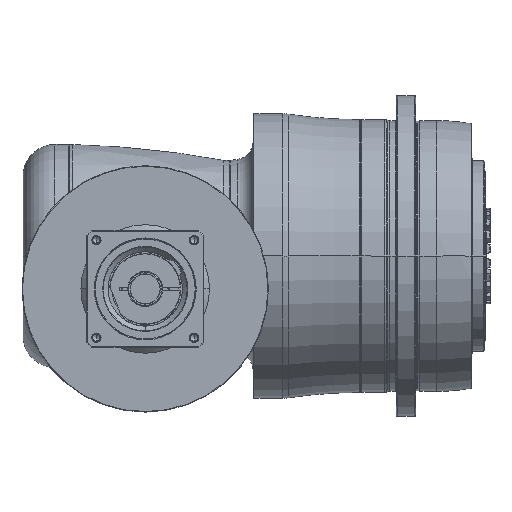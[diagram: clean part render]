
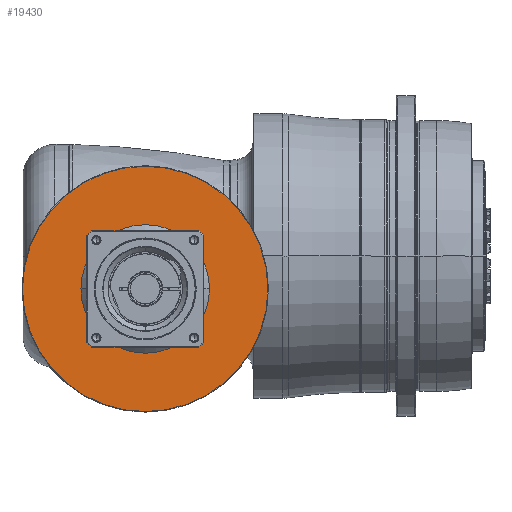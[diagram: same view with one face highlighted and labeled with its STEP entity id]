
A CAD part, front view. The second image highlights one B-rep face of the part: STEP entity #19430.
In plain terms, the highlighted planar face has unit normal (0, -1, 0) as drawn and (1, 0, 0) by its records, which use the part's own axes.
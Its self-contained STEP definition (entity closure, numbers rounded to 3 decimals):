
#18957=CARTESIAN_POINT('',(-5.5,0.,
0.));
#18958=DIRECTION('',(-1.,0.,0.));
#18959=DIRECTION('',(0.,1.,0.));
#18960=AXIS2_PLACEMENT_3D('',#18957,#18958,#18959);
#18962=CARTESIAN_POINT('',(-5.5,0.,
0.));
#18963=DIRECTION('',(-1.,0.,0.));
#18964=DIRECTION('',(0.,-1.,0.));
#18965=AXIS2_PLACEMENT_3D('',#18962,#18963,#18964);
#18967=CARTESIAN_POINT('',(-5.5,0.,0.));
#18968=DIRECTION('',(-1.,0.,0.));
#18969=DIRECTION('',(0.,-1.,0.));
#18970=AXIS2_PLACEMENT_3D('',#18967,#18968,#18969);
#18972=CARTESIAN_POINT('',(-5.5,0.,0.));
#18973=DIRECTION('',(-1.,0.,0.));
#18974=DIRECTION('',(0.,1.,0.));
#18975=AXIS2_PLACEMENT_3D('',#18972,#18973,#18974);
#19001=CARTESIAN_POINT('',(-5.5,-115.5,0.));
#19002=CARTESIAN_POINT('',(-5.5,115.5,0.));
#19003=VERTEX_POINT('',#19001);
#19004=VERTEX_POINT('',#19002);
#19049=CARTESIAN_POINT('',(-5.5,60.5,0.));
#19050=CARTESIAN_POINT('',(-5.5,-60.5,
0.));
#19051=VERTEX_POINT('',#19049);
#19052=VERTEX_POINT('',#19050);
#19415=CARTESIAN_POINT('',(-5.5,0.,0.));
#19416=DIRECTION('',(1.,0.,0.));
#19417=DIRECTION('',(0.,-1.,0.));
#19418=AXIS2_PLACEMENT_3D('',#19415,#19416,#19417);
#19419=PLANE('',#19418);
#19420=ORIENTED_EDGE('',*,*,#19356,.T.);
#19421=ORIENTED_EDGE('',*,*,#19371,.T.);
#19422=EDGE_LOOP('',(#19420,#19421));
#19423=FACE_OUTER_BOUND('',#19422,.F.);
#19425=ORIENTED_EDGE('',*,*,#19424,.F.);
#19427=ORIENTED_EDGE('',*,*,#19426,.F.);
#19428=EDGE_LOOP('',(#19425,#19427));
#19429=FACE_BOUND('',#19428,.F.);
#19430=ADVANCED_FACE('',(#19423,#19429),#19419,.T.);
#18961=CIRCLE('',#18960,60.5);
#18966=CIRCLE('',#18965,60.5);
#18971=CIRCLE('',#18970,115.5);
#18976=CIRCLE('',#18975,115.5);
#19356=EDGE_CURVE('',#19003,#19004,#18971,.T.);
#19371=EDGE_CURVE('',#19004,#19003,#18976,.T.);
#19424=EDGE_CURVE('',#19051,#19052,#18961,.T.);
#19426=EDGE_CURVE('',#19052,#19051,#18966,.T.);
